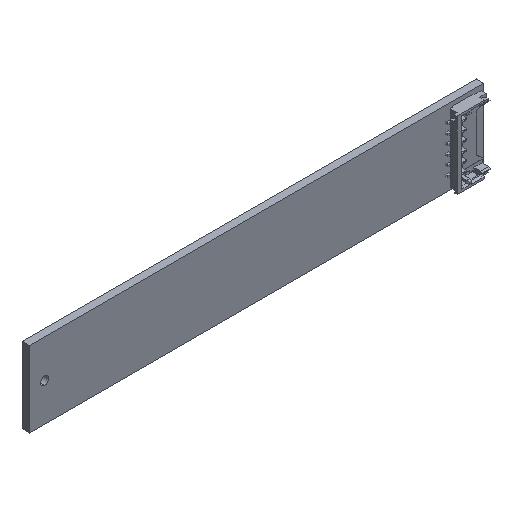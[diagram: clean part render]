
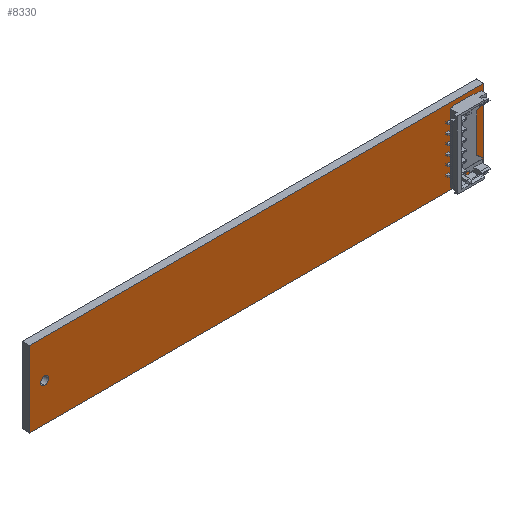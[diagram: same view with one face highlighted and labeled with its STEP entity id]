
A CAD part, isometric view. The second image highlights one B-rep face of the part: STEP entity #8330.
In plain terms, the highlighted planar face has unit normal (0, -1, 0).
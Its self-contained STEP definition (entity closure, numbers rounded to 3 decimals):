
#327 = CARTESIAN_POINT ( 'NONE',  ( -25., -1., -0.55 ) ) ;
#439 = DIRECTION ( 'NONE',  ( -1., 0., 0. ) ) ;
#487 = FACE_BOUND ( 'NONE', #6836, .T. ) ;
#1003 = CIRCLE ( 'NONE', #2915, 0.55 ) ;
#1033 = DIRECTION ( 'NONE',  ( 0., 0., 1. ) ) ;
#1116 = EDGE_LOOP ( 'NONE', ( #1782, #2586, #4427, #6768 ) ) ;
#1592 = AXIS2_PLACEMENT_3D ( 'NONE', #2407, #3973, #1033 ) ;
#1653 = CARTESIAN_POINT ( 'NONE',  ( -27., -1., 5. ) ) ;
#1729 = CARTESIAN_POINT ( 'NONE',  ( -27., -1., -5. ) ) ;
#1782 = ORIENTED_EDGE ( 'NONE', *, *, #3256, .F. ) ;
#1870 = AXIS2_PLACEMENT_3D ( 'NONE', #1958, #5406, #5456 ) ;
#1938 = ORIENTED_EDGE ( 'NONE', *, *, #6391, .T. ) ;
#1958 = CARTESIAN_POINT ( 'NONE',  ( 0., -1., 0. ) ) ;
#2004 = PLANE ( 'NONE',  #1870 ) ;
#2134 = ORIENTED_EDGE ( 'NONE', *, *, #7038, .T. ) ;
#2336 = LINE ( 'NONE', #1653, #7029 ) ;
#2382 = EDGE_CURVE ( 'NONE', #8439, #3227, #7655, .T. ) ;
#2384 = DIRECTION ( 'NONE',  ( 0., 0., 1. ) ) ;
#2407 = CARTESIAN_POINT ( 'NONE',  ( -25., -1., 0. ) ) ;
#2586 = ORIENTED_EDGE ( 'NONE', *, *, #2382, .F. ) ;
#2828 = EDGE_CURVE ( 'NONE', #2934, #8439, #4109, .T. ) ;
#2915 = AXIS2_PLACEMENT_3D ( 'NONE', #4463, #8043, #7900 ) ;
#2934 = VERTEX_POINT ( 'NONE', #5790 ) ;
#3227 = VERTEX_POINT ( 'NONE', #7073 ) ;
#3256 = EDGE_CURVE ( 'NONE', #3227, #8639, #3746, .T. ) ;
#3472 = DIRECTION ( 'NONE',  ( 0., 0., -1. ) ) ;
#3671 = DIRECTION ( 'NONE',  ( 1., 0., 0. ) ) ;
#3727 = CARTESIAN_POINT ( 'NONE',  ( -25., -1., 0.55 ) ) ;
#3746 = LINE ( 'NONE', #1729, #7310 ) ;
#3793 = VECTOR ( 'NONE', #3472, 1000. ) ;
#3973 = DIRECTION ( 'NONE',  ( 0., 1., 0. ) ) ;
#3988 = FACE_OUTER_BOUND ( 'NONE', #1116, .T. ) ;
#4024 = VERTEX_POINT ( 'NONE', #327 ) ;
#4082 = VERTEX_POINT ( 'NONE', #3727 ) ;
#4109 = LINE ( 'NONE', #8967, #4494 ) ;
#4427 = ORIENTED_EDGE ( 'NONE', *, *, #2828, .F. ) ;
#4463 = CARTESIAN_POINT ( 'NONE',  ( -25., -1., 0. ) ) ;
#4494 = VECTOR ( 'NONE', #3671, 1000. ) ;
#5406 = DIRECTION ( 'NONE',  ( 0., 1., 0. ) ) ;
#5456 = DIRECTION ( 'NONE',  ( 0., 0., 1. ) ) ;
#5572 = CIRCLE ( 'NONE', #1592, 0.55 ) ;
#5790 = CARTESIAN_POINT ( 'NONE',  ( -27., -1., 5. ) ) ;
#6373 = CARTESIAN_POINT ( 'NONE',  ( 33., -1., 5. ) ) ;
#6391 = EDGE_CURVE ( 'NONE', #4024, #4082, #1003, .T. ) ;
#6698 = EDGE_CURVE ( 'NONE', #8639, #2934, #2336, .T. ) ;
#6768 = ORIENTED_EDGE ( 'NONE', *, *, #6698, .F. ) ;
#6836 = EDGE_LOOP ( 'NONE', ( #2134, #1938 ) ) ;
#7029 = VECTOR ( 'NONE', #2384, 1000. ) ;
#7038 = EDGE_CURVE ( 'NONE', #4082, #4024, #5572, .T. ) ;
#7073 = CARTESIAN_POINT ( 'NONE',  ( 33., -1., -5. ) ) ;
#7240 = CARTESIAN_POINT ( 'NONE',  ( -27., -1., -5. ) ) ;
#7310 = VECTOR ( 'NONE', #439, 1000. ) ;
#7655 = LINE ( 'NONE', #8289, #3793 ) ;
#7900 = DIRECTION ( 'NONE',  ( 0., 0., 1. ) ) ;
#8043 = DIRECTION ( 'NONE',  ( 0., 1., 0. ) ) ;
#8289 = CARTESIAN_POINT ( 'NONE',  ( 33., -1., 5. ) ) ;
#8330 = ADVANCED_FACE ( 'NONE', ( #487, #3988 ), #2004, .F. ) ;
#8439 = VERTEX_POINT ( 'NONE', #6373 ) ;
#8639 = VERTEX_POINT ( 'NONE', #7240 ) ;
#8967 = CARTESIAN_POINT ( 'NONE',  ( 0., -1., 5. ) ) ;
